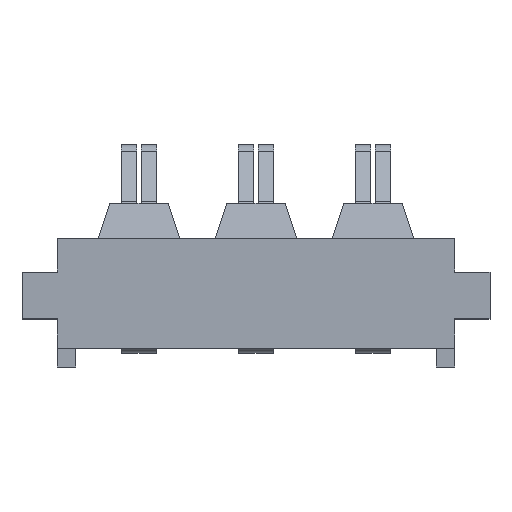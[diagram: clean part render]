
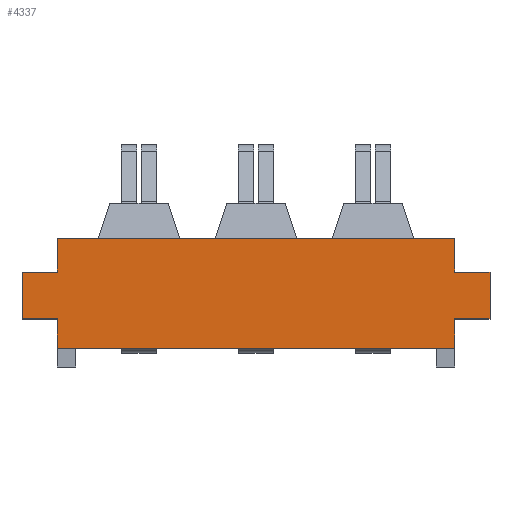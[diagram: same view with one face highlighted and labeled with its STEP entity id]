
A CAD part, top view. The second image highlights one B-rep face of the part: STEP entity #4337.
In plain terms, the highlighted planar face has unit normal (0, 0, 1).
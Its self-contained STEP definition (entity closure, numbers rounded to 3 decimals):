
#64 = VERTEX_POINT ( 'NONE', #3834 ) ;
#72 = CARTESIAN_POINT ( 'NONE',  ( 45.796, 30.569, 99.431 ) ) ;
#100 = LINE ( 'NONE', #1178, #4025 ) ;
#170 = CARTESIAN_POINT ( 'NONE',  ( 44.296, 28.569, 99.431 ) ) ;
#173 = DIRECTION ( 'NONE',  ( 0., -1., 0. ) ) ;
#195 = VECTOR ( 'NONE', #2146, 1000. ) ;
#206 = DIRECTION ( 'NONE',  ( 0., 0., 1. ) ) ;
#225 = CARTESIAN_POINT ( 'NONE',  ( 64.296, 28.569, 99.431 ) ) ;
#245 = ORIENTED_EDGE ( 'NONE', *, *, #2564, .T. ) ;
#248 = ORIENTED_EDGE ( 'NONE', *, *, #4233, .T. ) ;
#295 = VERTEX_POINT ( 'NONE', #2643 ) ;
#400 = DIRECTION ( 'NONE',  ( 0., 1., 0. ) ) ;
#408 = CARTESIAN_POINT ( 'NONE',  ( 6.823, 27.319, 99.431 ) ) ;
#431 = VECTOR ( 'NONE', #4010, 1000. ) ;
#445 = AXIS2_PLACEMENT_3D ( 'NONE', #874, #206, #1003 ) ;
#451 = ORIENTED_EDGE ( 'NONE', *, *, #1527, .T. ) ;
#529 = CARTESIAN_POINT ( 'NONE',  ( 64.296, 30.569, 99.431 ) ) ;
#589 = LINE ( 'NONE', #2606, #3238 ) ;
#606 = EDGE_LOOP ( 'NONE', ( #451, #1623, #3510, #248, #4369, #2815, #245, #2331, #1535, #2017, #3546, #824 ) ) ;
#610 = EDGE_CURVE ( 'NONE', #2318, #2153, #3236, .T. ) ;
#637 = CARTESIAN_POINT ( 'NONE',  ( 64.296, 28.569, 99.431 ) ) ;
#688 = PLANE ( 'NONE',  #445 ) ;
#740 = LINE ( 'NONE', #3788, #3000 ) ;
#824 = ORIENTED_EDGE ( 'NONE', *, *, #610, .T. ) ;
#864 = VERTEX_POINT ( 'NONE', #529 ) ;
#874 = CARTESIAN_POINT ( 'NONE',  ( 6.823, -28.646, 99.431 ) ) ;
#1003 = DIRECTION ( 'NONE',  ( 1., 0., 0. ) ) ;
#1006 = VERTEX_POINT ( 'NONE', #3326 ) ;
#1107 = CARTESIAN_POINT ( 'NONE',  ( 45.796, 28.569, 99.431 ) ) ;
#1112 = CARTESIAN_POINT ( 'NONE',  ( 62.796, 27.319, 99.431 ) ) ;
#1115 = EDGE_CURVE ( 'NONE', #1819, #64, #2100, .T. ) ;
#1178 = CARTESIAN_POINT ( 'NONE',  ( 64.296, 30.569, 99.431 ) ) ;
#1183 = LINE ( 'NONE', #1880, #1622 ) ;
#1316 = VECTOR ( 'NONE', #2826, 1000. ) ;
#1404 = CARTESIAN_POINT ( 'NONE',  ( 62.796, 26.519, 99.431 ) ) ;
#1527 = EDGE_CURVE ( 'NONE', #2153, #1006, #1183, .T. ) ;
#1535 = ORIENTED_EDGE ( 'NONE', *, *, #3906, .T. ) ;
#1549 = CARTESIAN_POINT ( 'NONE',  ( 44.296, 28.569, 99.431 ) ) ;
#1568 = VECTOR ( 'NONE', #2823, 1000. ) ;
#1622 = VECTOR ( 'NONE', #173, 1000. ) ;
#1623 = ORIENTED_EDGE ( 'NONE', *, *, #2183, .T. ) ;
#1756 = DIRECTION ( 'NONE',  ( 1., 0., 0. ) ) ;
#1786 = VECTOR ( 'NONE', #2678, 1000. ) ;
#1819 = VERTEX_POINT ( 'NONE', #1112 ) ;
#1880 = CARTESIAN_POINT ( 'NONE',  ( 45.796, 28.569, 99.431 ) ) ;
#1933 = LINE ( 'NONE', #4332, #1786 ) ;
#1962 = VERTEX_POINT ( 'NONE', #2019 ) ;
#2017 = ORIENTED_EDGE ( 'NONE', *, *, #2890, .T. ) ;
#2019 = CARTESIAN_POINT ( 'NONE',  ( 62.796, 32.019, 99.431 ) ) ;
#2100 = LINE ( 'NONE', #1404, #4200 ) ;
#2146 = DIRECTION ( 'NONE',  ( 1., 0., 0. ) ) ;
#2153 = VERTEX_POINT ( 'NONE', #1107 ) ;
#2183 = EDGE_CURVE ( 'NONE', #1006, #1819, #3771, .T. ) ;
#2301 = VERTEX_POINT ( 'NONE', #2894 ) ;
#2318 = VERTEX_POINT ( 'NONE', #1549 ) ;
#2331 = ORIENTED_EDGE ( 'NONE', *, *, #3131, .T. ) ;
#2375 = EDGE_CURVE ( 'NONE', #3896, #864, #3380, .T. ) ;
#2537 = CARTESIAN_POINT ( 'NONE',  ( 62.796, 28.569, 99.431 ) ) ;
#2557 = LINE ( 'NONE', #2537, #1316 ) ;
#2564 = EDGE_CURVE ( 'NONE', #295, #1962, #740, .T. ) ;
#2583 = CARTESIAN_POINT ( 'NONE',  ( 45.796, 32.019, 99.431 ) ) ;
#2606 = CARTESIAN_POINT ( 'NONE',  ( 45.796, 32.019, 99.431 ) ) ;
#2643 = CARTESIAN_POINT ( 'NONE',  ( 62.796, 30.569, 99.431 ) ) ;
#2648 = CARTESIAN_POINT ( 'NONE',  ( 62.796, 32.019, 99.431 ) ) ;
#2678 = DIRECTION ( 'NONE',  ( 0., -1., 0. ) ) ;
#2740 = EDGE_CURVE ( 'NONE', #4241, #2318, #1933, .T. ) ;
#2783 = VECTOR ( 'NONE', #1756, 1000. ) ;
#2791 = DIRECTION ( 'NONE',  ( 0., 1., 0. ) ) ;
#2815 = ORIENTED_EDGE ( 'NONE', *, *, #3755, .T. ) ;
#2823 = DIRECTION ( 'NONE',  ( -1., 0., 0. ) ) ;
#2826 = DIRECTION ( 'NONE',  ( 1., 0., 0. ) ) ;
#2890 = EDGE_CURVE ( 'NONE', #2301, #4241, #4149, .T. ) ;
#2894 = CARTESIAN_POINT ( 'NONE',  ( 45.796, 30.569, 99.431 ) ) ;
#3000 = VECTOR ( 'NONE', #400, 1000. ) ;
#3028 = DIRECTION ( 'NONE',  ( 0., 1., 0. ) ) ;
#3131 = EDGE_CURVE ( 'NONE', #1962, #3722, #4348, .T. ) ;
#3236 = LINE ( 'NONE', #170, #195 ) ;
#3238 = VECTOR ( 'NONE', #4362, 1000. ) ;
#3326 = CARTESIAN_POINT ( 'NONE',  ( 45.796, 27.319, 99.431 ) ) ;
#3355 = VECTOR ( 'NONE', #3028, 1000. ) ;
#3380 = LINE ( 'NONE', #225, #3355 ) ;
#3510 = ORIENTED_EDGE ( 'NONE', *, *, #1115, .T. ) ;
#3546 = ORIENTED_EDGE ( 'NONE', *, *, #2740, .T. ) ;
#3657 = FACE_OUTER_BOUND ( 'NONE', #606, .T. ) ;
#3722 = VERTEX_POINT ( 'NONE', #2583 ) ;
#3755 = EDGE_CURVE ( 'NONE', #864, #295, #100, .T. ) ;
#3771 = LINE ( 'NONE', #408, #2783 ) ;
#3788 = CARTESIAN_POINT ( 'NONE',  ( 62.796, 30.569, 99.431 ) ) ;
#3834 = CARTESIAN_POINT ( 'NONE',  ( 62.796, 28.569, 99.431 ) ) ;
#3896 = VERTEX_POINT ( 'NONE', #637 ) ;
#3906 = EDGE_CURVE ( 'NONE', #3722, #2301, #589, .T. ) ;
#3987 = CARTESIAN_POINT ( 'NONE',  ( 44.296, 30.569, 99.431 ) ) ;
#4010 = DIRECTION ( 'NONE',  ( -1., 0., 0. ) ) ;
#4025 = VECTOR ( 'NONE', #4197, 1000. ) ;
#4149 = LINE ( 'NONE', #72, #1568 ) ;
#4197 = DIRECTION ( 'NONE',  ( -1., 0., 0. ) ) ;
#4200 = VECTOR ( 'NONE', #2791, 1000. ) ;
#4233 = EDGE_CURVE ( 'NONE', #64, #3896, #2557, .T. ) ;
#4241 = VERTEX_POINT ( 'NONE', #3987 ) ;
#4332 = CARTESIAN_POINT ( 'NONE',  ( 44.296, 30.569, 99.431 ) ) ;
#4337 = ADVANCED_FACE ( 'NONE', ( #3657 ), #688, .T. ) ;
#4348 = LINE ( 'NONE', #2648, #431 ) ;
#4362 = DIRECTION ( 'NONE',  ( 0., -1., 0. ) ) ;
#4369 = ORIENTED_EDGE ( 'NONE', *, *, #2375, .T. ) ;
